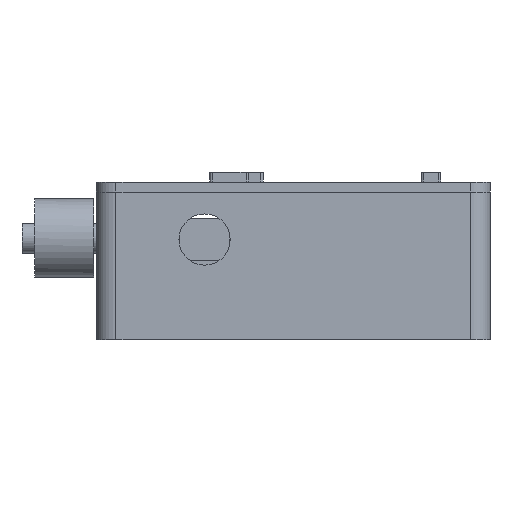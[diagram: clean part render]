
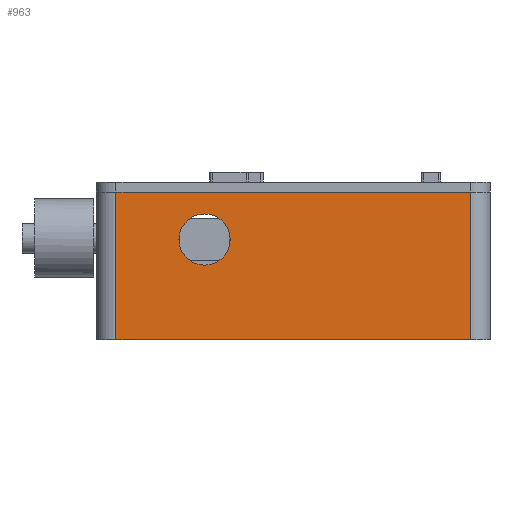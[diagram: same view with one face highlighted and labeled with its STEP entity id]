
A CAD part, front view. The second image highlights one B-rep face of the part: STEP entity #963.
In plain terms, the highlighted planar face has unit normal (0, -1, 0).
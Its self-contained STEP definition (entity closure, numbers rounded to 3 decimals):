
#138 = PLANE('',#139);
#139 = AXIS2_PLACEMENT_3D('',#140,#141,#142);
#140 = CARTESIAN_POINT('',(0.,0.,30.));
#141 = DIRECTION('',(0.,0.,1.));
#142 = DIRECTION('',(1.,0.,0.));
#166 = CYLINDRICAL_SURFACE('',#167,4.);
#167 = AXIS2_PLACEMENT_3D('',#168,#169,#170);
#168 = CARTESIAN_POINT('',(4.,4.,0.));
#169 = DIRECTION('',(0.,0.,1.));
#170 = DIRECTION('',(-1.,-0.,0.));
#194 = PLANE('',#195);
#195 = AXIS2_PLACEMENT_3D('',#196,#197,#198);
#196 = CARTESIAN_POINT('',(0.,0.,0.));
#197 = DIRECTION('',(0.,0.,1.));
#198 = DIRECTION('',(1.,0.,0.));
#268 = VERTEX_POINT('',#269);
#269 = CARTESIAN_POINT('',(4.,0.,30.));
#291 = EDGE_CURVE('',#268,#292,#294,.T.);
#292 = VERTEX_POINT('',#293);
#293 = CARTESIAN_POINT('',(76.,0.,30.));
#294 = SURFACE_CURVE('',#295,(#299,#306),.PCURVE_S1.);
#295 = LINE('',#296,#297);
#296 = CARTESIAN_POINT('',(0.,0.,30.));
#297 = VECTOR('',#298,1.);
#298 = DIRECTION('',(1.,0.,0.));
#299 = PCURVE('',#138,#300);
#300 = DEFINITIONAL_REPRESENTATION('',(#301),#305);
#301 = LINE('',#302,#303);
#302 = CARTESIAN_POINT('',(0.,0.));
#303 = VECTOR('',#304,1.);
#304 = DIRECTION('',(1.,0.));
#305 = ( GEOMETRIC_REPRESENTATION_CONTEXT(2) 
PARAMETRIC_REPRESENTATION_CONTEXT() REPRESENTATION_CONTEXT('2D SPACE',''
  ) );
#306 = PCURVE('',#307,#312);
#307 = PLANE('',#308);
#308 = AXIS2_PLACEMENT_3D('',#309,#310,#311);
#309 = CARTESIAN_POINT('',(0.,0.,0.));
#310 = DIRECTION('',(0.,1.,0.));
#311 = DIRECTION('',(0.,0.,1.));
#312 = DEFINITIONAL_REPRESENTATION('',(#313),#317);
#313 = LINE('',#314,#315);
#314 = CARTESIAN_POINT('',(30.,0.));
#315 = VECTOR('',#316,1.);
#316 = DIRECTION('',(0.,1.));
#317 = ( GEOMETRIC_REPRESENTATION_CONTEXT(2) 
PARAMETRIC_REPRESENTATION_CONTEXT() REPRESENTATION_CONTEXT('2D SPACE',''
  ) );
#340 = CYLINDRICAL_SURFACE('',#341,4.);
#341 = AXIS2_PLACEMENT_3D('',#342,#343,#344);
#342 = CARTESIAN_POINT('',(76.,4.,0.));
#343 = DIRECTION('',(0.,0.,1.));
#344 = DIRECTION('',(1.,0.,-0.));
#689 = VERTEX_POINT('',#690);
#690 = CARTESIAN_POINT('',(4.,0.,0.));
#712 = EDGE_CURVE('',#689,#268,#713,.T.);
#713 = SURFACE_CURVE('',#714,(#718,#725),.PCURVE_S1.);
#714 = LINE('',#715,#716);
#715 = CARTESIAN_POINT('',(4.,0.,0.));
#716 = VECTOR('',#717,1.);
#717 = DIRECTION('',(0.,0.,1.));
#718 = PCURVE('',#166,#719);
#719 = DEFINITIONAL_REPRESENTATION('',(#720),#724);
#720 = LINE('',#721,#722);
#721 = CARTESIAN_POINT('',(1.571,0.));
#722 = VECTOR('',#723,1.);
#723 = DIRECTION('',(0.,1.));
#724 = ( GEOMETRIC_REPRESENTATION_CONTEXT(2) 
PARAMETRIC_REPRESENTATION_CONTEXT() REPRESENTATION_CONTEXT('2D SPACE',''
  ) );
#725 = PCURVE('',#307,#726);
#726 = DEFINITIONAL_REPRESENTATION('',(#727),#731);
#727 = LINE('',#728,#729);
#728 = CARTESIAN_POINT('',(0.,4.));
#729 = VECTOR('',#730,1.);
#730 = DIRECTION('',(1.,0.));
#731 = ( GEOMETRIC_REPRESENTATION_CONTEXT(2) 
PARAMETRIC_REPRESENTATION_CONTEXT() REPRESENTATION_CONTEXT('2D SPACE',''
  ) );
#794 = EDGE_CURVE('',#689,#795,#797,.T.);
#795 = VERTEX_POINT('',#796);
#796 = CARTESIAN_POINT('',(76.,0.,0.));
#797 = SURFACE_CURVE('',#798,(#802,#809),.PCURVE_S1.);
#798 = LINE('',#799,#800);
#799 = CARTESIAN_POINT('',(0.,0.,0.));
#800 = VECTOR('',#801,1.);
#801 = DIRECTION('',(1.,0.,0.));
#802 = PCURVE('',#194,#803);
#803 = DEFINITIONAL_REPRESENTATION('',(#804),#808);
#804 = LINE('',#805,#806);
#805 = CARTESIAN_POINT('',(0.,0.));
#806 = VECTOR('',#807,1.);
#807 = DIRECTION('',(1.,0.));
#808 = ( GEOMETRIC_REPRESENTATION_CONTEXT(2) 
PARAMETRIC_REPRESENTATION_CONTEXT() REPRESENTATION_CONTEXT('2D SPACE',''
  ) );
#809 = PCURVE('',#307,#810);
#810 = DEFINITIONAL_REPRESENTATION('',(#811),#815);
#811 = LINE('',#812,#813);
#812 = CARTESIAN_POINT('',(0.,0.));
#813 = VECTOR('',#814,1.);
#814 = DIRECTION('',(0.,1.));
#815 = ( GEOMETRIC_REPRESENTATION_CONTEXT(2) 
PARAMETRIC_REPRESENTATION_CONTEXT() REPRESENTATION_CONTEXT('2D SPACE',''
  ) );
#963 = ADVANCED_FACE('',(#964,#990),#307,.F.);
#964 = FACE_BOUND('',#965,.F.);
#965 = EDGE_LOOP('',(#966,#967,#968,#969));
#966 = ORIENTED_EDGE('',*,*,#794,.F.);
#967 = ORIENTED_EDGE('',*,*,#712,.T.);
#968 = ORIENTED_EDGE('',*,*,#291,.T.);
#969 = ORIENTED_EDGE('',*,*,#970,.F.);
#970 = EDGE_CURVE('',#795,#292,#971,.T.);
#971 = SURFACE_CURVE('',#972,(#976,#983),.PCURVE_S1.);
#972 = LINE('',#973,#974);
#973 = CARTESIAN_POINT('',(76.,0.,0.));
#974 = VECTOR('',#975,1.);
#975 = DIRECTION('',(0.,0.,1.));
#976 = PCURVE('',#307,#977);
#977 = DEFINITIONAL_REPRESENTATION('',(#978),#982);
#978 = LINE('',#979,#980);
#979 = CARTESIAN_POINT('',(0.,76.));
#980 = VECTOR('',#981,1.);
#981 = DIRECTION('',(1.,0.));
#982 = ( GEOMETRIC_REPRESENTATION_CONTEXT(2) 
PARAMETRIC_REPRESENTATION_CONTEXT() REPRESENTATION_CONTEXT('2D SPACE',''
  ) );
#983 = PCURVE('',#340,#984);
#984 = DEFINITIONAL_REPRESENTATION('',(#985),#989);
#985 = LINE('',#986,#987);
#986 = CARTESIAN_POINT('',(-1.571,0.));
#987 = VECTOR('',#988,1.);
#988 = DIRECTION('',(-0.,1.));
#989 = ( GEOMETRIC_REPRESENTATION_CONTEXT(2) 
PARAMETRIC_REPRESENTATION_CONTEXT() REPRESENTATION_CONTEXT('2D SPACE',''
  ) );
#990 = FACE_BOUND('',#991,.F.);
#991 = EDGE_LOOP('',(#992));
#992 = ORIENTED_EDGE('',*,*,#993,.F.);
#993 = EDGE_CURVE('',#994,#994,#996,.T.);
#994 = VERTEX_POINT('',#995);
#995 = CARTESIAN_POINT('',(22.,0.,25.55));
#996 = SURFACE_CURVE('',#997,(#1002,#1009),.PCURVE_S1.);
#997 = CIRCLE('',#998,5.2);
#998 = AXIS2_PLACEMENT_3D('',#999,#1000,#1001);
#999 = CARTESIAN_POINT('',(22.,0.,20.35));
#1000 = DIRECTION('',(0.,1.,0.));
#1001 = DIRECTION('',(0.,-0.,1.));
#1002 = PCURVE('',#307,#1003);
#1003 = DEFINITIONAL_REPRESENTATION('',(#1004),#1008);
#1004 = CIRCLE('',#1005,5.2);
#1005 = AXIS2_PLACEMENT_2D('',#1006,#1007);
#1006 = CARTESIAN_POINT('',(20.35,22.));
#1007 = DIRECTION('',(1.,0.));
#1008 = ( GEOMETRIC_REPRESENTATION_CONTEXT(2) 
PARAMETRIC_REPRESENTATION_CONTEXT() REPRESENTATION_CONTEXT('2D SPACE',''
  ) );
#1009 = PCURVE('',#1010,#1015);
#1010 = CYLINDRICAL_SURFACE('',#1011,5.2);
#1011 = AXIS2_PLACEMENT_3D('',#1012,#1013,#1014);
#1012 = CARTESIAN_POINT('',(22.,-0.1,20.35));
#1013 = DIRECTION('',(0.,1.,0.));
#1014 = DIRECTION('',(0.,-0.,1.));
#1015 = DEFINITIONAL_REPRESENTATION('',(#1016),#1020);
#1016 = LINE('',#1017,#1018);
#1017 = CARTESIAN_POINT('',(0.,0.1));
#1018 = VECTOR('',#1019,1.);
#1019 = DIRECTION('',(1.,0.));
#1020 = ( GEOMETRIC_REPRESENTATION_CONTEXT(2) 
PARAMETRIC_REPRESENTATION_CONTEXT() REPRESENTATION_CONTEXT('2D SPACE',''
  ) );
